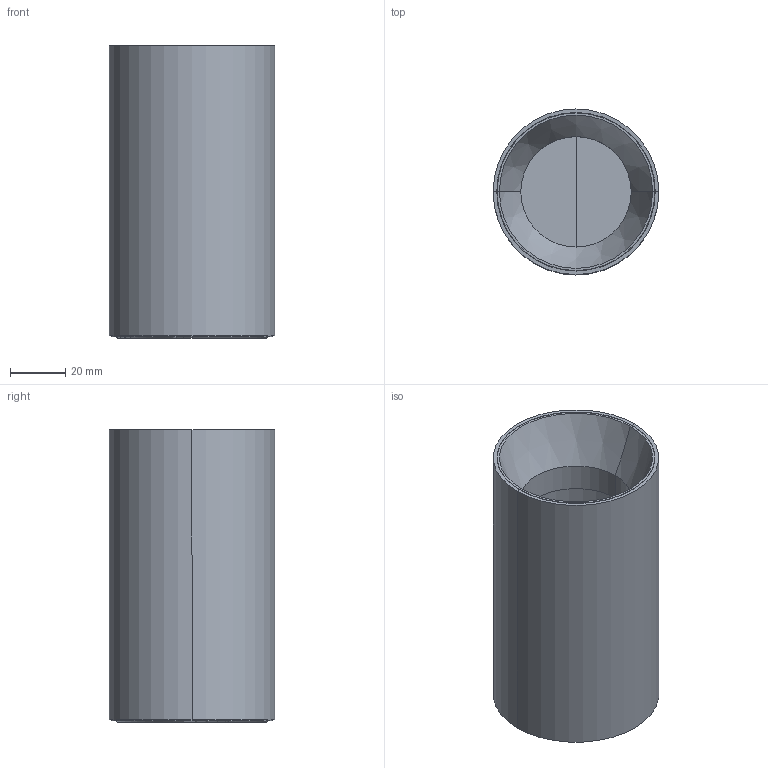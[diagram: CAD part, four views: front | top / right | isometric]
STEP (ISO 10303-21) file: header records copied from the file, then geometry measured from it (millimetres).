
FILE_DESCRIPTION(/* description */ (''),/* implementation_level */ '2;1');
FILE_NAME(/* name */ '43764.step',/* time_stamp */ '2024-04-08T08:50:33+02:00',/* author */ ('RenataManzini'),/* organization */ (''),/* preprocessor_version */ 'ST-DEVELOPER v20',/* originating_system */ 'AutoCAD Mechanical',/* authorisation */ '');
FILE_SCHEMA (('AUTOMOTIVE_DESIGN { 1 0 10303 214 3 1 1 }'));
Length unit declared in the file: millimetre
Products named in the file (2): Product; 43746_43747 - STAN-455811-_3D_
Assembly tree (1 placements, depth 2):
  Product
    43746_43747 - STAN-455811-_3D_
Bounding box: 60 x 60 x 106 mm (x, y, z)
Volume: 54598.1 mm3; surface area: 66872.8 mm2
Topology: 5 solids, 5 shells, 68 faces, 138 edges, 74 vertices
Faces by surface type: cylinder 28, plane 26, cone 6, bspline 4, torus 4
Entity records: 2798 total; most frequent: CARTESIAN_POINT 1293, DIRECTION 338, ORIENTED_EDGE 276, AXIS2_PLACEMENT_3D 141, EDGE_CURVE 138, CIRCLE 74, VERTEX_POINT 74, EDGE_LOOP 70
